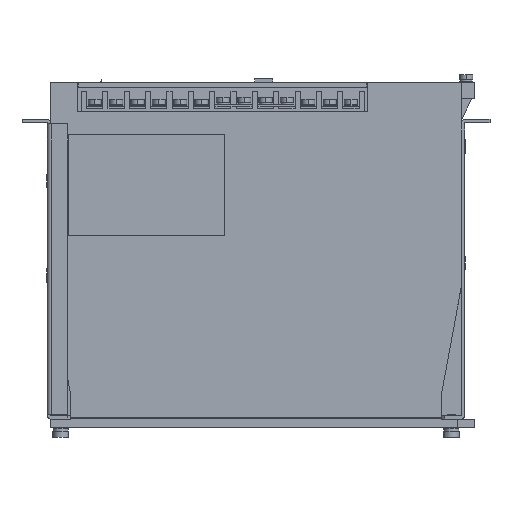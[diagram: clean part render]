
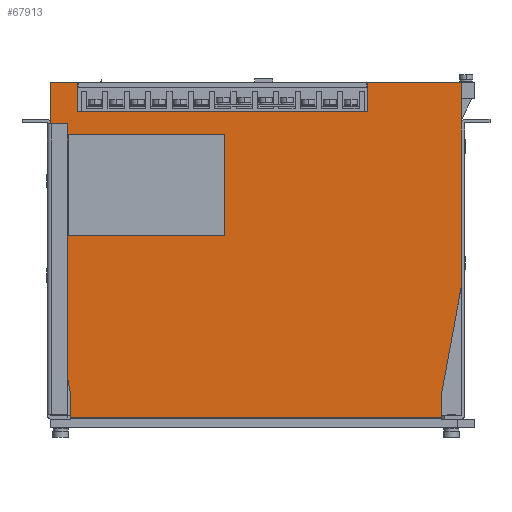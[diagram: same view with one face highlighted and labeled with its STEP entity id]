
A CAD part, left-side view. The second image highlights one B-rep face of the part: STEP entity #67913.
In plain terms, the highlighted planar face has unit normal (-1, 0, 0).
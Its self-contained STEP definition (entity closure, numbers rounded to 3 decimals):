
#44006 = CARTESIAN_POINT ( 'NONE',  ( -105., -186.7, 192.2 ) ) ;
#44054 = CARTESIAN_POINT ( 'NONE',  ( -105., -10.5, 192.2 ) ) ;
#44055 = DIRECTION ( 'NONE',  ( 0., 0., 1. ) ) ;
#44056 = VECTOR ( 'NONE', #44055, 1000. ) ;
#44057 = CARTESIAN_POINT ( 'NONE',  ( -105., -10.5, 192.2 ) ) ;
#44058 = LINE ( 'NONE', #44057, #44056 ) ;
#44063 = DIRECTION ( 'NONE',  ( 0., 0., 1. ) ) ;
#44064 = VECTOR ( 'NONE', #44063, 1000. ) ;
#44065 = CARTESIAN_POINT ( 'NONE',  ( -105., -186.7, 192.2 ) ) ;
#44066 = LINE ( 'NONE', #44065, #44064 ) ;
#44077 = CARTESIAN_POINT ( 'NONE',  ( -105., -10.5, 210. ) ) ;
#44147 = CARTESIAN_POINT ( 'NONE',  ( -105., -186.7, 210. ) ) ;
#46629 = DIRECTION ( 'NONE',  ( 0., -1., 0. ) ) ;
#46630 = VECTOR ( 'NONE', #46629, 1000. ) ;
#46631 = CARTESIAN_POINT ( 'NONE',  ( -105., -10.5, 192.2 ) ) ;
#46632 = LINE ( 'NONE', #46631, #46630 ) ;
#49291 = CARTESIAN_POINT ( 'NONE',  ( -105., -244., 210. ) ) ;
#49292 = DIRECTION ( 'NONE',  ( 0., -1., 0. ) ) ;
#49293 = VECTOR ( 'NONE', #49292, 1000. ) ;
#49294 = CARTESIAN_POINT ( 'NONE',  ( -105., 6., 210. ) ) ;
#49295 = LINE ( 'NONE', #49294, #49293 ) ;
#49305 = DIRECTION ( 'NONE',  ( 0., -1., 0. ) ) ;
#49306 = VECTOR ( 'NONE', #49305, 1000. ) ;
#49307 = CARTESIAN_POINT ( 'NONE',  ( -105., 6., 210. ) ) ;
#49308 = LINE ( 'NONE', #49307, #49306 ) ;
#49309 = CARTESIAN_POINT ( 'NONE',  ( -105., 6., 210. ) ) ;
#51504 = DIRECTION ( 'NONE',  ( 0., 0., -1. ) ) ;
#51505 = VECTOR ( 'NONE', #51504, 1000. ) ;
#51506 = CARTESIAN_POINT ( 'NONE',  ( -105., 6., 467.13 ) ) ;
#51507 = LINE ( 'NONE', #51506, #51505 ) ;
#51508 = CARTESIAN_POINT ( 'NONE',  ( -105., 6., 70.5 ) ) ;
#55907 = CARTESIAN_POINT ( 'NONE',  ( -105., -244., 85.5 ) ) ;
#55908 = DIRECTION ( 'NONE',  ( 0., 0., -1. ) ) ;
#55909 = VECTOR ( 'NONE', #55908, 1000. ) ;
#55910 = CARTESIAN_POINT ( 'NONE',  ( -105., -244., 467.13 ) ) ;
#55911 = LINE ( 'NONE', #55910, #55909 ) ;
#55957 = CARTESIAN_POINT ( 'NONE',  ( -105., -6., 20.5 ) ) ;
#55958 = LINE ( 'NONE', #55957, #56024 ) ;
#55959 = CARTESIAN_POINT ( 'NONE',  ( -105., -6., 5.7 ) ) ;
#55991 = DIRECTION ( 'NONE',  ( 0., 0., -1. ) ) ;
#55992 = VECTOR ( 'NONE', #55991, 1000. ) ;
#55993 = CARTESIAN_POINT ( 'NONE',  ( -105., -232., 20.5 ) ) ;
#55994 = LINE ( 'NONE', #55993, #55992 ) ;
#55996 = CARTESIAN_POINT ( 'NONE',  ( -105., -232., 20.5 ) ) ;
#56001 = DIRECTION ( 'NONE',  ( 0., 0., -1. ) ) ;
#56002 = DIRECTION ( 'NONE',  ( 1., 0., 0. ) ) ;
#56003 = CARTESIAN_POINT ( 'NONE',  ( -105., 6., 483.13 ) ) ;
#56004 = AXIS2_PLACEMENT_3D ( 'NONE', #56003, #56002, #56001 ) ;
#56005 = PLANE ( 'NONE',  #56004 ) ;
#56006 = FACE_BOUND ( 'NONE', #67970, .T. ) ;
#56007 = FACE_OUTER_BOUND ( 'NONE', #67914, .T. ) ;
#56022 = CARTESIAN_POINT ( 'NONE',  ( -105., -6., 20.5 ) ) ;
#56023 = DIRECTION ( 'NONE',  ( 0., 0., -1. ) ) ;
#56024 = VECTOR ( 'NONE', #56023, 1000. ) ;
#56054 = CARTESIAN_POINT ( 'NONE',  ( -105., -232., 5.7 ) ) ;
#56076 = DIRECTION ( 'NONE',  ( 0., 1., 0. ) ) ;
#56077 = VECTOR ( 'NONE', #56076, 1000. ) ;
#56078 = CARTESIAN_POINT ( 'NONE',  ( -105., -5., 178.5 ) ) ;
#56079 = LINE ( 'NONE', #56078, #56077 ) ;
#56095 = DIRECTION ( 'NONE',  ( 0., 0., -1. ) ) ;
#56096 = VECTOR ( 'NONE', #56095, 1000. ) ;
#56097 = CARTESIAN_POINT ( 'NONE',  ( -105., -5., 116.5 ) ) ;
#56098 = LINE ( 'NONE', #56097, #56096 ) ;
#56099 = CARTESIAN_POINT ( 'NONE',  ( -105., -5., 116.5 ) ) ;
#56100 = DIRECTION ( 'NONE',  ( 0., -1., 0. ) ) ;
#56101 = VECTOR ( 'NONE', #56100, 1000. ) ;
#56102 = CARTESIAN_POINT ( 'NONE',  ( -105., -5., 116.5 ) ) ;
#56103 = LINE ( 'NONE', #56102, #56101 ) ;
#56104 = CARTESIAN_POINT ( 'NONE',  ( -105., -100., 178.5 ) ) ;
#56105 = CARTESIAN_POINT ( 'NONE',  ( -105., -100., 116.5 ) ) ;
#56106 = DIRECTION ( 'NONE',  ( 0., 0., 1. ) ) ;
#56107 = VECTOR ( 'NONE', #56106, 1000. ) ;
#56108 = CARTESIAN_POINT ( 'NONE',  ( -105., -100., 116.5 ) ) ;
#56109 = LINE ( 'NONE', #56108, #56107 ) ;
#56140 = DIRECTION ( 'NONE',  ( 0., -0.182, 0.983 ) ) ;
#56141 = VECTOR ( 'NONE', #56140, 1000. ) ;
#56142 = CARTESIAN_POINT ( 'NONE',  ( -105., -232., 20.5 ) ) ;
#56143 = LINE ( 'NONE', #56142, #56141 ) ;
#56144 = DIRECTION ( 'NONE',  ( 0., -1., 0. ) ) ;
#56145 = VECTOR ( 'NONE', #56144, 1000. ) ;
#56146 = CARTESIAN_POINT ( 'NONE',  ( -105., -6., 5.7 ) ) ;
#56147 = LINE ( 'NONE', #56146, #56145 ) ;
#56148 = DIRECTION ( 'NONE',  ( 0., 0.182, 0.983 ) ) ;
#56149 = VECTOR ( 'NONE', #56148, 1000. ) ;
#56150 = CARTESIAN_POINT ( 'NONE',  ( -105., -6., 20.5 ) ) ;
#56151 = LINE ( 'NONE', #56150, #56149 ) ;
#56152 = CARTESIAN_POINT ( 'NONE',  ( -105., 3.231, 70.5 ) ) ;
#56153 = DIRECTION ( 'NONE',  ( 0., -1., 0. ) ) ;
#56154 = VECTOR ( 'NONE', #56153, 1000. ) ;
#56155 = CARTESIAN_POINT ( 'NONE',  ( -105., 6., 70.5 ) ) ;
#56156 = LINE ( 'NONE', #56155, #56154 ) ;
#56158 = CARTESIAN_POINT ( 'NONE',  ( -105., -5., 178.5 ) ) ;
#61164 = VERTEX_POINT ( 'NONE', #44006 ) ;
#61166 = EDGE_CURVE ( 'NONE', #61164, #61228, #44066, .T. ) ;
#61170 = EDGE_CURVE ( 'NONE', #61171, #61194, #44058, .T. ) ;
#61171 = VERTEX_POINT ( 'NONE', #44054 ) ;
#61194 = VERTEX_POINT ( 'NONE', #44077 ) ;
#61228 = VERTEX_POINT ( 'NONE', #44147 ) ;
#62623 = EDGE_CURVE ( 'NONE', #61171, #61164, #46632, .T. ) ;
#64107 = VERTEX_POINT ( 'NONE', #49309 ) ;
#64109 = EDGE_CURVE ( 'NONE', #64107, #61194, #49308, .T. ) ;
#64118 = EDGE_CURVE ( 'NONE', #61228, #64119, #49295, .T. ) ;
#64119 = VERTEX_POINT ( 'NONE', #49291 ) ;
#65370 = VERTEX_POINT ( 'NONE', #51508 ) ;
#65372 = EDGE_CURVE ( 'NONE', #64107, #65370, #51507, .T. ) ;
#67856 = EDGE_CURVE ( 'NONE', #64119, #67857, #55911, .T. ) ;
#67857 = VERTEX_POINT ( 'NONE', #55907 ) ;
#67899 = VERTEX_POINT ( 'NONE', #55959 ) ;
#67901 = EDGE_CURVE ( 'NONE', #67902, #67899, #55958, .T. ) ;
#67902 = VERTEX_POINT ( 'NONE', #56022 ) ;
#67913 = ADVANCED_FACE ( 'NONE', ( #56007, #56006 ), #56005, .F. ) ;
#67914 = EDGE_LOOP ( 'NONE', ( #67915, #67916, #67981, #67982, #67984, #67987, #67989, #67990, #67992, #67993, #67967, #67968, #67969 ) ) ;
#67915 = ORIENTED_EDGE ( 'NONE', *, *, #62623, .F. ) ;
#67916 = ORIENTED_EDGE ( 'NONE', *, *, #61170, .T. ) ;
#67918 = VERTEX_POINT ( 'NONE', #55996 ) ;
#67920 = EDGE_CURVE ( 'NONE', #67918, #67921, #55994, .T. ) ;
#67921 = VERTEX_POINT ( 'NONE', #56054 ) ;
#67953 = ORIENTED_EDGE ( 'NONE', *, *, #67954, .F. ) ;
#67954 = EDGE_CURVE ( 'NONE', #67974, #67980, #56079, .T. ) ;
#67967 = ORIENTED_EDGE ( 'NONE', *, *, #67856, .F. ) ;
#67968 = ORIENTED_EDGE ( 'NONE', *, *, #64118, .F. ) ;
#67969 = ORIENTED_EDGE ( 'NONE', *, *, #61166, .F. ) ;
#67970 = EDGE_LOOP ( 'NONE', ( #67971, #67975, #67978, #67953 ) ) ;
#67971 = ORIENTED_EDGE ( 'NONE', *, *, #67972, .F. ) ;
#67972 = EDGE_CURVE ( 'NONE', #67973, #67974, #56109, .T. ) ;
#67973 = VERTEX_POINT ( 'NONE', #56105 ) ;
#67974 = VERTEX_POINT ( 'NONE', #56104 ) ;
#67975 = ORIENTED_EDGE ( 'NONE', *, *, #67976, .F. ) ;
#67976 = EDGE_CURVE ( 'NONE', #67977, #67973, #56103, .T. ) ;
#67977 = VERTEX_POINT ( 'NONE', #56099 ) ;
#67978 = ORIENTED_EDGE ( 'NONE', *, *, #67979, .F. ) ;
#67979 = EDGE_CURVE ( 'NONE', #67980, #67977, #56098, .T. ) ;
#67980 = VERTEX_POINT ( 'NONE', #56158 ) ;
#67981 = ORIENTED_EDGE ( 'NONE', *, *, #64109, .F. ) ;
#67982 = ORIENTED_EDGE ( 'NONE', *, *, #65372, .T. ) ;
#67984 = ORIENTED_EDGE ( 'NONE', *, *, #67985, .T. ) ;
#67985 = EDGE_CURVE ( 'NONE', #65370, #67986, #56156, .T. ) ;
#67986 = VERTEX_POINT ( 'NONE', #56152 ) ;
#67987 = ORIENTED_EDGE ( 'NONE', *, *, #67988, .F. ) ;
#67988 = EDGE_CURVE ( 'NONE', #67902, #67986, #56151, .T. ) ;
#67989 = ORIENTED_EDGE ( 'NONE', *, *, #67901, .T. ) ;
#67990 = ORIENTED_EDGE ( 'NONE', *, *, #67991, .T. ) ;
#67991 = EDGE_CURVE ( 'NONE', #67899, #67921, #56147, .T. ) ;
#67992 = ORIENTED_EDGE ( 'NONE', *, *, #67920, .F. ) ;
#67993 = ORIENTED_EDGE ( 'NONE', *, *, #67994, .T. ) ;
#67994 = EDGE_CURVE ( 'NONE', #67918, #67857, #56143, .T. ) ;
